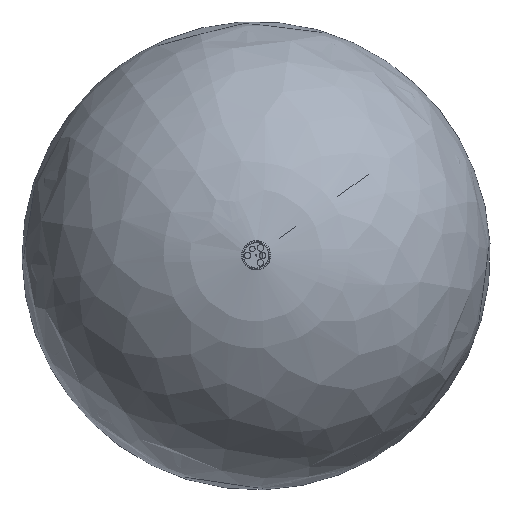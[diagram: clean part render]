
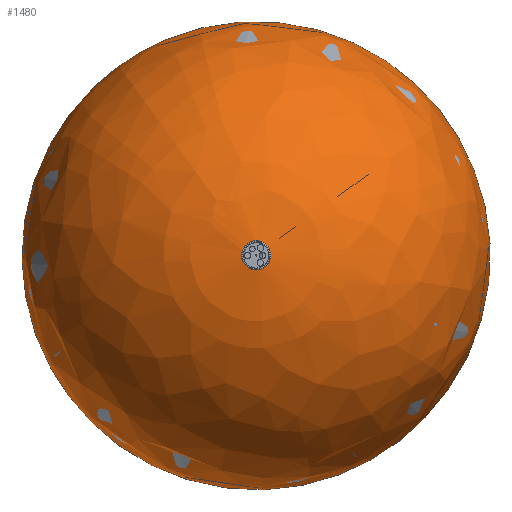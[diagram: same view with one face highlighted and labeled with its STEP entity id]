
A CAD part, top view. The second image highlights one B-rep face of the part: STEP entity #1480.
In plain terms, the highlighted free-form (B-spline) face has degree [2, 2] with [9, 5] control points.
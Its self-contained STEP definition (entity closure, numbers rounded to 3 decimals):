
#1480=ADVANCED_FACE('',(#2560),#17774,.T.);
#2560=FACE_OUTER_BOUND('',#3718,.T.);
#3718=EDGE_LOOP('',(#9477,#9478,#9479,#9480,#9481,#9482));
#9477=ORIENTED_EDGE('',*,*,#12543,.T.);
#9478=ORIENTED_EDGE('',*,*,#12544,.T.);
#9479=ORIENTED_EDGE('',*,*,#12537,.F.);
#9480=ORIENTED_EDGE('',*,*,#12536,.F.);
#9481=ORIENTED_EDGE('',*,*,#12540,.F.);
#9482=ORIENTED_EDGE('',*,*,#12544,.F.);
#12536=EDGE_CURVE('',#17491,#17492,#15515,.T.);
#12537=EDGE_CURVE('',#17492,#17493,#15516,.T.);
#12540=EDGE_CURVE('',#17493,#17491,#15519,.T.);
#12543=EDGE_CURVE('',#17495,#17495,#15522,.T.);
#12544=EDGE_CURVE('',#17495,#17493,#15523,.T.);
#15515=(
BOUNDED_CURVE()
B_SPLINE_CURVE(2,(#55743,#55744,#55745),.UNSPECIFIED.,.F.,.F.)
B_SPLINE_CURVE_WITH_KNOTS((3,3),(0.,18.934),.UNSPECIFIED.)
CURVE()
GEOMETRIC_REPRESENTATION_ITEM()
RATIONAL_B_SPLINE_CURVE((1.,0.707,1.))
REPRESENTATION_ITEM('')
);
#15516=(
BOUNDED_CURVE()
B_SPLINE_CURVE(2,(#55746,#55747,#55748,#55749,#55750),.UNSPECIFIED.,.F.,
 .F.)
B_SPLINE_CURVE_WITH_KNOTS((3,2,3),(18.934,37.867,56.801),
 .UNSPECIFIED.)
CURVE()
GEOMETRIC_REPRESENTATION_ITEM()
RATIONAL_B_SPLINE_CURVE((1.,0.707,1.,0.707,1.))
REPRESENTATION_ITEM('')
);
#15519=(
BOUNDED_CURVE()
B_SPLINE_CURVE(2,(#55759,#55760,#55761),.UNSPECIFIED.,.F.,.F.)
B_SPLINE_CURVE_WITH_KNOTS((3,3),(0.,18.934),.UNSPECIFIED.)
CURVE()
GEOMETRIC_REPRESENTATION_ITEM()
RATIONAL_B_SPLINE_CURVE((1.,0.707,1.))
REPRESENTATION_ITEM('')
);
#15522=(
BOUNDED_CURVE()
B_SPLINE_CURVE(2,(#55770,#55771,#55772,#55773,#55774,#55775,#55776,#55777,
#55778),.UNSPECIFIED.,.T.,.F.)
B_SPLINE_CURVE_WITH_KNOTS((3,2,2,2,3),(0.,353.429,706.858,
1060.288,1413.717),.UNSPECIFIED.)
CURVE()
GEOMETRIC_REPRESENTATION_ITEM()
RATIONAL_B_SPLINE_CURVE((1.,0.707,1.,0.707,1.,0.707,
1.,0.707,1.))
REPRESENTATION_ITEM('')
);
#15523=(
BOUNDED_CURVE()
B_SPLINE_CURVE(2,(#55779,#55780,#55781),.UNSPECIFIED.,.F.,.F.)
B_SPLINE_CURVE_WITH_KNOTS((3,3),(353.429,694.799),
 .UNSPECIFIED.)
CURVE()
GEOMETRIC_REPRESENTATION_ITEM()
RATIONAL_B_SPLINE_CURVE((1.,0.726,1.))
REPRESENTATION_ITEM('')
);
#17491=VERTEX_POINT('',#55715);
#17492=VERTEX_POINT('',#55716);
#17493=VERTEX_POINT('',#55717);
#17495=VERTEX_POINT('',#55719);
#17774=(
BOUNDED_SURFACE()
B_SPLINE_SURFACE(2,2,((#55663,#55664,#55665,#55666,#55667),(#55668,#55669,
#55670,#55671,#55672),(#55673,#55674,#55675,#55676,#55677),(#55678,#55679,
#55680,#55681,#55682),(#55683,#55684,#55685,#55686,#55687),(#55688,#55689,
#55690,#55691,#55692),(#55693,#55694,#55695,#55696,#55697),(#55698,#55699,
#55700,#55701,#55702),(#55703,#55704,#55705,#55706,#55707)),
 .UNSPECIFIED.,.T.,.F.,.F.)
B_SPLINE_SURFACE_WITH_KNOTS((3,2,2,2,3),(3,2,3),(0.,353.429,706.858,
1060.288,1413.717),(0.,353.429,706.858),
 .UNSPECIFIED.)
GEOMETRIC_REPRESENTATION_ITEM()
RATIONAL_B_SPLINE_SURFACE(((1.,0.707,1.,0.707,1.),
(0.707,0.5,0.707,0.5,0.707),(1.,0.707,
1.,0.707,1.),(0.707,0.5,0.707,0.5,0.707),
(1.,0.707,1.,0.707,1.),(0.707,0.5,0.707,
0.5,0.707),(1.,0.707,1.,0.707,1.),(0.707,
0.5,0.707,0.5,0.707),(1.,0.707,1.,0.707,
1.)))
REPRESENTATION_ITEM('')
SURFACE()
);
#55663=CARTESIAN_POINT('',(0.,0.,-225.));
#55664=CARTESIAN_POINT('',(-131.746,182.395,-225.));
#55665=CARTESIAN_POINT('',(-131.746,182.395,0.));
#55666=CARTESIAN_POINT('',(-131.746,182.395,225.));
#55667=CARTESIAN_POINT('',(0.,0.,225.));
#55668=CARTESIAN_POINT('',(0.,0.,-225.));
#55669=CARTESIAN_POINT('',(-314.141,50.65,-225.));
#55670=CARTESIAN_POINT('',(-314.141,50.65,0.));
#55671=CARTESIAN_POINT('',(-314.141,50.65,225.));
#55672=CARTESIAN_POINT('',(0.,0.,225.));
#55673=CARTESIAN_POINT('',(0.,0.,-225.));
#55674=CARTESIAN_POINT('',(-182.395,-131.746,-225.));
#55675=CARTESIAN_POINT('',(-182.395,-131.746,0.));
#55676=CARTESIAN_POINT('',(-182.395,-131.746,225.));
#55677=CARTESIAN_POINT('',(0.,0.,225.));
#55678=CARTESIAN_POINT('',(0.,0.,-225.));
#55679=CARTESIAN_POINT('',(-50.65,-314.141,-225.));
#55680=CARTESIAN_POINT('',(-50.65,-314.141,0.));
#55681=CARTESIAN_POINT('',(-50.65,-314.141,225.));
#55682=CARTESIAN_POINT('',(0.,0.,225.));
#55683=CARTESIAN_POINT('',(0.,0.,-225.));
#55684=CARTESIAN_POINT('',(131.746,-182.395,-225.));
#55685=CARTESIAN_POINT('',(131.746,-182.395,0.));
#55686=CARTESIAN_POINT('',(131.746,-182.395,225.));
#55687=CARTESIAN_POINT('',(0.,0.,225.));
#55688=CARTESIAN_POINT('',(0.,0.,-225.));
#55689=CARTESIAN_POINT('',(314.141,-50.65,-225.));
#55690=CARTESIAN_POINT('',(314.141,-50.65,0.));
#55691=CARTESIAN_POINT('',(314.141,-50.65,225.));
#55692=CARTESIAN_POINT('',(0.,0.,225.));
#55693=CARTESIAN_POINT('',(0.,0.,-225.));
#55694=CARTESIAN_POINT('',(182.395,131.746,-225.));
#55695=CARTESIAN_POINT('',(182.395,131.746,0.));
#55696=CARTESIAN_POINT('',(182.395,131.746,225.));
#55697=CARTESIAN_POINT('',(0.,0.,225.));
#55698=CARTESIAN_POINT('',(0.,0.,-225.));
#55699=CARTESIAN_POINT('',(50.65,314.141,-225.));
#55700=CARTESIAN_POINT('',(50.65,314.141,0.));
#55701=CARTESIAN_POINT('',(50.65,314.141,225.));
#55702=CARTESIAN_POINT('',(0.,0.,225.));
#55703=CARTESIAN_POINT('',(0.,0.,-225.));
#55704=CARTESIAN_POINT('',(-131.746,182.395,-225.));
#55705=CARTESIAN_POINT('',(-131.746,182.395,0.));
#55706=CARTESIAN_POINT('',(-131.746,182.395,225.));
#55707=CARTESIAN_POINT('',(0.,0.,225.));
#55715=CARTESIAN_POINT('',(-9.771,-7.058,224.677));
#55716=CARTESIAN_POINT('',(7.058,-9.771,224.677));
#55717=CARTESIAN_POINT('',(-7.058,9.771,224.677));
#55719=CARTESIAN_POINT('',(-131.746,182.395,0.));
#55743=CARTESIAN_POINT('',(-9.771,-7.058,224.677));
#55744=CARTESIAN_POINT('',(-2.713,-16.829,224.677));
#55745=CARTESIAN_POINT('',(7.058,-9.771,224.677));
#55746=CARTESIAN_POINT('',(7.058,-9.771,224.677));
#55747=CARTESIAN_POINT('',(16.829,-2.713,224.677));
#55748=CARTESIAN_POINT('',(9.771,7.058,224.677));
#55749=CARTESIAN_POINT('',(2.713,16.829,224.677));
#55750=CARTESIAN_POINT('',(-7.058,9.771,224.677));
#55759=CARTESIAN_POINT('',(-7.058,9.771,224.677));
#55760=CARTESIAN_POINT('',(-16.829,2.713,224.677));
#55761=CARTESIAN_POINT('',(-9.771,-7.058,224.677));
#55770=CARTESIAN_POINT('',(-131.746,182.395,0.));
#55771=CARTESIAN_POINT('',(-314.141,50.65,0.));
#55772=CARTESIAN_POINT('',(-182.395,-131.746,0.));
#55773=CARTESIAN_POINT('',(-50.65,-314.141,0.));
#55774=CARTESIAN_POINT('',(131.746,-182.395,0.));
#55775=CARTESIAN_POINT('',(314.141,-50.65,0.));
#55776=CARTESIAN_POINT('',(182.395,131.746,0.));
#55777=CARTESIAN_POINT('',(50.65,314.141,0.));
#55778=CARTESIAN_POINT('',(-131.746,182.395,0.));
#55779=CARTESIAN_POINT('',(-131.746,182.395,0.));
#55780=CARTESIAN_POINT('',(-131.746,182.395,213.253));
#55781=CARTESIAN_POINT('',(-7.058,9.771,224.677));
